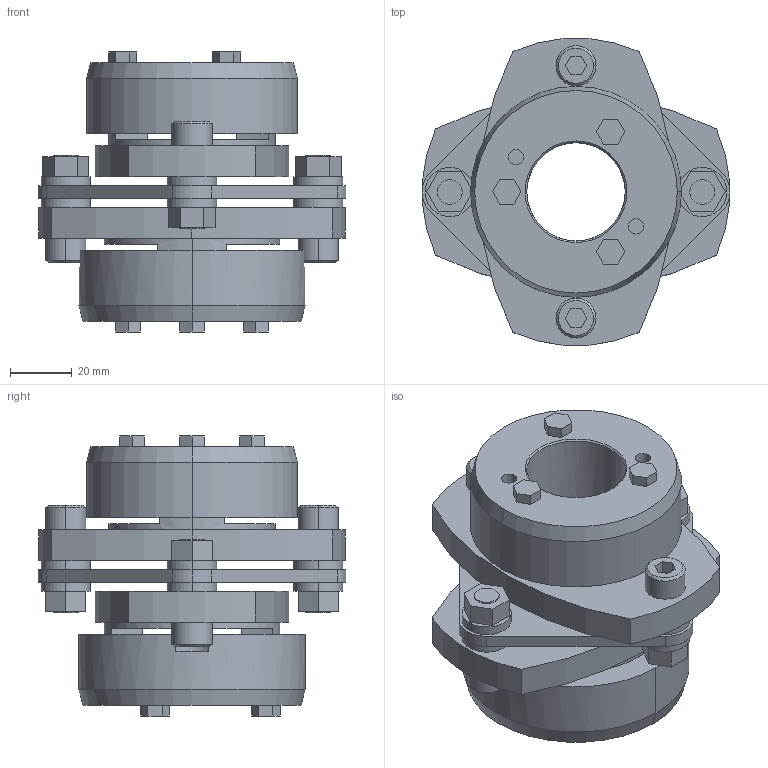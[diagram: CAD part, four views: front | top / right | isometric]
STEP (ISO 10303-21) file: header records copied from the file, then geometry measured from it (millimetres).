
FILE_DESCRIPTION((''),'2;1');
FILE_NAME('LCS-100T7-32×35.stp','2011-09-09T08:07:06',(''),(''),'AutoCAD STEP 2000i','AutoCAD 2000i',', , ');
FILE_SCHEMA(('CONFIG_CONTROL_DESIGN'));
Length unit declared in the file: millimetre
Products named in the file (10): LCS-100T7-30×35; 忣兜1; LC100T7-T035; LC100T7-T030-1; LC100T7-T030; LC100T7-T025-1; LC100T7-T025; LC100T7-T022-1; LC100T7-T022; LCS100-ITA
Assembly tree (9 placements, depth 2):
  LCS-100T7-30×35
    忣兜1
    LC100T7-T035
    LC100T7-T030-1
    LC100T7-T030
    LC100T7-T025-1
    LC100T7-T025
    LC100T7-T022-1
    LC100T7-T022
    LCS100-ITA
Bounding box: 100 x 99.93 x 91 mm (x, y, z)
Volume: 267470 mm3; surface area: 65881.3 mm2
Topology: 1 solids, 1 shells, 236 faces, 580 edges, 380 vertices
Faces by surface type: plane 134, cylinder 82, cone 20
Entity records: 7245 total; most frequent: DIRECTION 1276, CARTESIAN_POINT 1206, ORIENTED_EDGE 1160, EDGE_CURVE 580, AXIS2_PLACEMENT_3D 450, VERTEX_POINT 380, VECTOR 376, LINE 376
